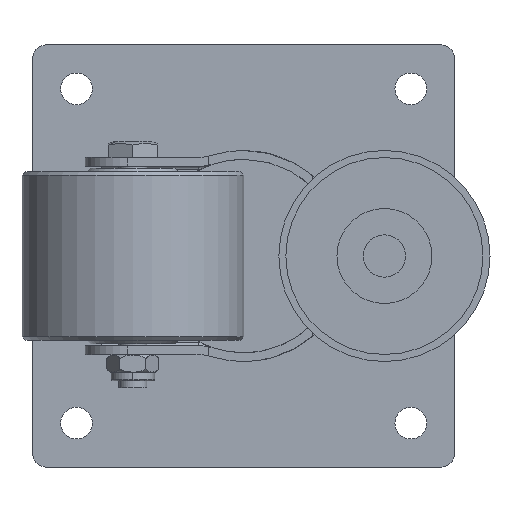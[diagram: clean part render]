
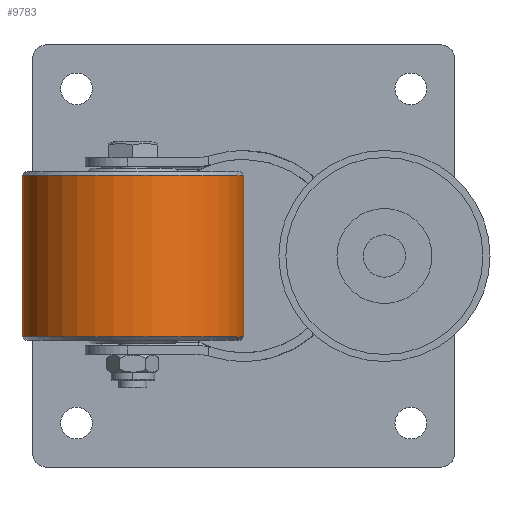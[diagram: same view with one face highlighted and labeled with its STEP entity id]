
A CAD part, front view. The second image highlights one B-rep face of the part: STEP entity #9783.
In plain terms, the highlighted cylindrical face has radius 31.5 mm (diameter 63 mm), a partial arc.
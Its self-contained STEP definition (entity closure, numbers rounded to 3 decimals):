
#1981 = EDGE_CURVE ( 'NONE', #4783, #10243, #3280, .T. ) ;
#2666 = DIRECTION ( 'NONE',  ( 0., 0., -1. ) ) ;
#3022 = CARTESIAN_POINT ( 'NONE',  ( -31.5, 0., 24. ) ) ;
#3123 = CARTESIAN_POINT ( 'NONE',  ( 31.5, 0., -23. ) ) ;
#3188 = AXIS2_PLACEMENT_3D ( 'NONE', #6610, #2666, #4667 ) ;
#3280 = LINE ( 'NONE', #12449, #7329 ) ;
#3646 = ORIENTED_EDGE ( 'NONE', *, *, #6912, .T. ) ;
#4094 = CARTESIAN_POINT ( 'NONE',  ( -31.5, 0., 23. ) ) ;
#4101 = CARTESIAN_POINT ( 'NONE',  ( -31.5, 0., -23. ) ) ;
#4667 = DIRECTION ( 'NONE',  ( -1., 0., 0. ) ) ;
#4783 = VERTEX_POINT ( 'NONE', #5204 ) ;
#4868 = EDGE_CURVE ( 'NONE', #4783, #9584, #11137, .T. ) ;
#4884 = DIRECTION ( 'NONE',  ( 1., 0., 0. ) ) ;
#5204 = CARTESIAN_POINT ( 'NONE',  ( 31.5, 0., 23. ) ) ;
#5367 = EDGE_LOOP ( 'NONE', ( #11923, #10342, #3646, #8900 ) ) ;
#5508 = EDGE_CURVE ( 'NONE', #11874, #10243, #12387, .T. ) ;
#5752 = VECTOR ( 'NONE', #7936, 1000. ) ;
#6292 = AXIS2_PLACEMENT_3D ( 'NONE', #12220, #9456, #6416 ) ;
#6416 = DIRECTION ( 'NONE',  ( 1., 0., 0. ) ) ;
#6610 = CARTESIAN_POINT ( 'NONE',  ( 0., 0., 24. ) ) ;
#6912 = EDGE_CURVE ( 'NONE', #9584, #11874, #9164, .T. ) ;
#7008 = AXIS2_PLACEMENT_3D ( 'NONE', #12719, #10765, #4884 ) ;
#7329 = VECTOR ( 'NONE', #12501, 1000. ) ;
#7936 = DIRECTION ( 'NONE',  ( 0., 0., -1. ) ) ;
#8900 = ORIENTED_EDGE ( 'NONE', *, *, #5508, .T. ) ;
#9121 = CYLINDRICAL_SURFACE ( 'NONE', #3188, 31.5 ) ;
#9164 = LINE ( 'NONE', #3022, #5752 ) ;
#9456 = DIRECTION ( 'NONE',  ( 0., 0., -1. ) ) ;
#9584 = VERTEX_POINT ( 'NONE', #4094 ) ;
#9783 = ADVANCED_FACE ( 'NONE', ( #12009 ), #9121, .T. ) ;
#10243 = VERTEX_POINT ( 'NONE', #3123 ) ;
#10342 = ORIENTED_EDGE ( 'NONE', *, *, #4868, .T. ) ;
#10765 = DIRECTION ( 'NONE',  ( 0., 0., 1. ) ) ;
#11137 = CIRCLE ( 'NONE', #6292, 31.5 ) ;
#11874 = VERTEX_POINT ( 'NONE', #4101 ) ;
#11923 = ORIENTED_EDGE ( 'NONE', *, *, #1981, .F. ) ;
#12009 = FACE_OUTER_BOUND ( 'NONE', #5367, .T. ) ;
#12220 = CARTESIAN_POINT ( 'NONE',  ( 0., 0., 23. ) ) ;
#12387 = CIRCLE ( 'NONE', #7008, 31.5 ) ;
#12449 = CARTESIAN_POINT ( 'NONE',  ( 31.5, 0., 24. ) ) ;
#12501 = DIRECTION ( 'NONE',  ( 0., 0., -1. ) ) ;
#12719 = CARTESIAN_POINT ( 'NONE',  ( 0., 0., -23. ) ) ;
